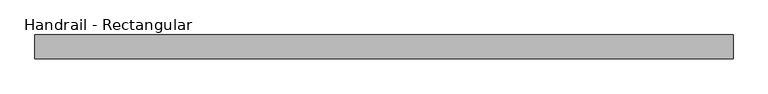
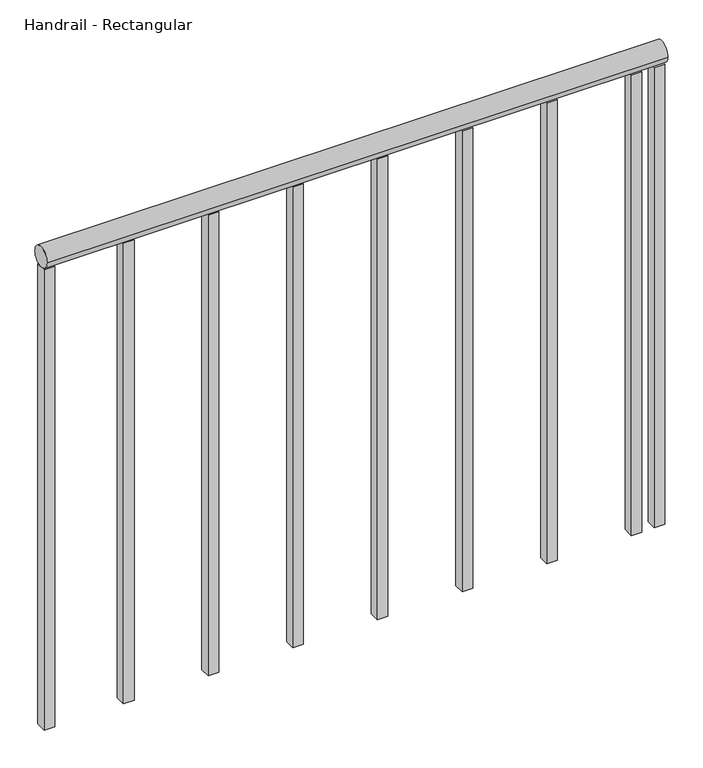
"""IFC4 building model written with IfcOpenShell, lengths in millimetres: railing geometry, Handrail - Rectangular."""

from ifc_helpers import new_model, si_unit, point, frame, frame_2d, origin, place, context, project, spatial, polyline, circle_curve, trimmed, segment, composite_curve, outline, extrude, source, transform, mapped, element, save


def handrail_rectangular_f7f0d73b(model_context):
    return source(origin(), model_context, "Body", "SweptSolid", [
        extrude(outline(composite_curve([segment(trimmed(circle_curve(frame_2d((4375.6316867, 10039.35)), 19.05), [point((4356.5816867, 10039.35))], [point((4394.6816867, 10039.35))], False, "CARTESIAN"), True, "CONTINUOUS"), segment(trimmed(circle_curve(frame_2d((4375.6316867, 10039.35)), 19.05), [point((4394.6816867, 10039.35))], [point((4356.5816867, 10039.35))], False, "CARTESIAN"), True, "CONTINUOUS")], self_intersect=False)), frame((-31964.2839563, 0.0, 0.0), z_axis=(1.0, 0.0, 0.0), x_axis=(0.0, 1.0, 0.0)), (0.0, 0.0, 1.0), 1117.6),
        extrude(outline(polyline([(-30907.0089563, 4385.1566867), (-30887.9589563, 4385.1566867), (-30887.9589563, 4366.1066867), (-30907.0089563, 4366.1066867), (-30907.0089563, 4385.1566867)])), frame((0.0, 0.0, 9144.0), z_axis=(0.0, 0.0, 1.0), x_axis=(1.0, 0.0, 0.0)), (0.0, 0.0, 1.0), 876.3),
        extrude(outline(polyline([(-31059.4089563, 4385.1566867), (-31040.3589563, 4385.1566867), (-31040.3589563, 4366.1066867), (-31059.4089563, 4366.1066867), (-31059.4089563, 4385.1566867)])), frame((0.0, 0.0, 9144.0), z_axis=(0.0, 0.0, 1.0), x_axis=(1.0, 0.0, 0.0)), (0.0, 0.0, 1.0), 876.3),
        extrude(outline(polyline([(-31211.8089563, 4385.1566867), (-31192.7589563, 4385.1566867), (-31192.7589563, 4366.1066867), (-31211.8089563, 4366.1066867), (-31211.8089563, 4385.1566867)])), frame((0.0, 0.0, 9144.0), z_axis=(0.0, 0.0, 1.0), x_axis=(1.0, 0.0, 0.0)), (0.0, 0.0, 1.0), 876.3),
        extrude(outline(polyline([(-31364.2089563, 4385.1566867), (-31345.1589563, 4385.1566867), (-31345.1589563, 4366.1066867), (-31364.2089563, 4366.1066867), (-31364.2089563, 4385.1566867)])), frame((0.0, 0.0, 9144.0), z_axis=(0.0, 0.0, 1.0), x_axis=(1.0, 0.0, 0.0)), (0.0, 0.0, 1.0), 876.3),
        extrude(outline(polyline([(-31516.6089563, 4385.1566867), (-31497.5589563, 4385.1566867), (-31497.5589563, 4366.1066867), (-31516.6089563, 4366.1066867), (-31516.6089563, 4385.1566867)])), frame((0.0, 0.0, 9144.0), z_axis=(0.0, 0.0, 1.0), x_axis=(1.0, 0.0, 0.0)), (0.0, 0.0, 1.0), 876.3),
        extrude(outline(polyline([(-31669.0089563, 4385.1566867), (-31649.9589563, 4385.1566867), (-31649.9589563, 4366.1066867), (-31669.0089563, 4366.1066867), (-31669.0089563, 4385.1566867)])), frame((0.0, 0.0, 9144.0), z_axis=(0.0, 0.0, 1.0), x_axis=(1.0, 0.0, 0.0)), (0.0, 0.0, 1.0), 876.3),
        extrude(outline(polyline([(-31821.4089563, 4385.1566867), (-31802.3589563, 4385.1566867), (-31802.3589563, 4366.1066867), (-31821.4089563, 4366.1066867), (-31821.4089563, 4385.1566867)])), frame((0.0, 0.0, 9144.0), z_axis=(0.0, 0.0, 1.0), x_axis=(1.0, 0.0, 0.0)), (0.0, 0.0, 1.0), 876.3),
        extrude(outline(polyline([(-30865.7339563, 4385.1566867), (-30846.6839563, 4385.1566867), (-30846.6839563, 4366.1066867), (-30865.7339563, 4366.1066867), (-30865.7339563, 4385.1566867)])), frame((0.0, 0.0, 9144.0), z_axis=(0.0, 0.0, 1.0), x_axis=(1.0, 0.0, 0.0)), (0.0, 0.0, 1.0), 876.3),
        extrude(outline(polyline([(-31964.2839563, 4385.1566867), (-31945.2339563, 4385.1566867), (-31945.2339563, 4366.1066867), (-31964.2839563, 4366.1066867), (-31964.2839563, 4385.1566867)])), frame((0.0, 0.0, 9144.0), z_axis=(0.0, 0.0, 1.0), x_axis=(1.0, 0.0, 0.0)), (0.0, 0.0, 1.0), 876.3),
    ])


if __name__ == "__main__":
    model = new_model("IFC4")
    model_context = context("Model", 3, world=origin())
    ifc_project = project(units=[si_unit("LENGTHUNIT", "METRE", prefix="MILLI")], contexts=[model_context])
    site = spatial("IfcSite", under=ifc_project)
    building = spatial("IfcBuilding", under=site)
    placement = place(None, origin())
    handrail_rectangular_shape = handrail_rectangular_f7f0d73b(model_context)
    element("IfcRailing", 1, ObjectType="Handrail - Rectangular", at=placement, inside=building, context=model_context, shape_type="MappedRepresentation", body=[
        mapped(handrail_rectangular_shape, transform((0.0, 0.0, 0.0), x_axis=(1.0, 0.0, 0.0), y_axis=(0.0, 1.0, 0.0), z_axis=(0.0, 0.0, 1.0))),
    ])
    save(model, "model.ifc")
